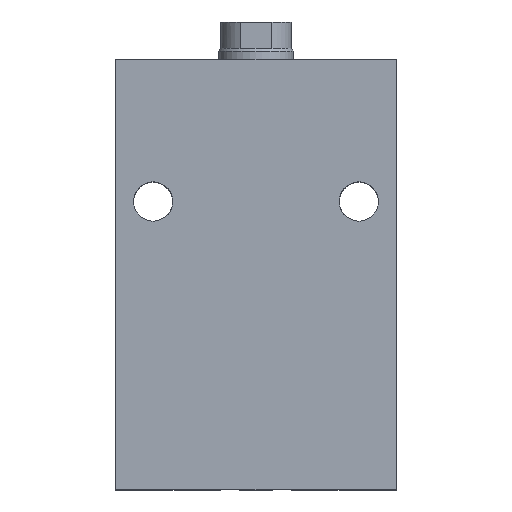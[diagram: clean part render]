
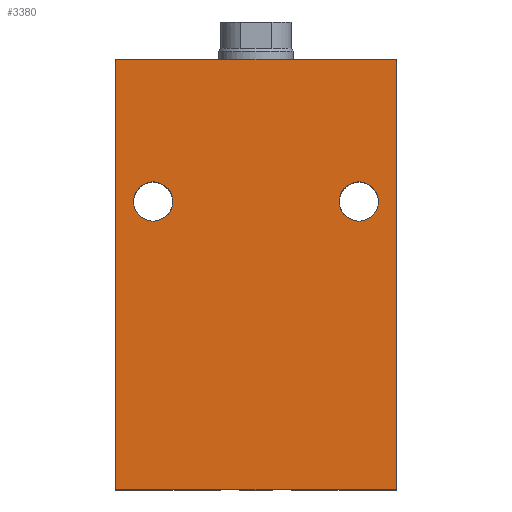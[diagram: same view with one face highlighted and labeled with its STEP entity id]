
A CAD part, top view. The second image highlights one B-rep face of the part: STEP entity #3380.
In plain terms, the highlighted planar face has unit normal (0, 0, 1).
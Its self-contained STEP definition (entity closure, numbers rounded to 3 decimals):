
#5 = EDGE_CURVE ( 'NONE', #3952, #1416, #1798, .T. ) ;
#94 = EDGE_CURVE ( 'NONE', #2467, #1801, #1583, .T. ) ;
#113 = CIRCLE ( 'NONE', #1434, 5.25 ) ;
#277 = CIRCLE ( 'NONE', #853, 5.25 ) ;
#332 = VECTOR ( 'NONE', #2322, 1000. ) ;
#348 = VECTOR ( 'NONE', #864, 1000. ) ;
#382 = FACE_OUTER_BOUND ( 'NONE', #917, .T. ) ;
#427 = LINE ( 'NONE', #1681, #332 ) ;
#451 = EDGE_CURVE ( 'NONE', #2295, #4205, #699, .T. ) ;
#499 = EDGE_CURVE ( 'NONE', #3570, #2856, #2376, .T. ) ;
#594 = DIRECTION ( 'NONE',  ( 0., 0., 1. ) ) ;
#699 = LINE ( 'NONE', #2973, #4210 ) ;
#729 = CARTESIAN_POINT ( 'NONE',  ( -37.5, 65., 27.5 ) ) ;
#785 = EDGE_CURVE ( 'NONE', #2856, #3570, #113, .T. ) ;
#812 = CARTESIAN_POINT ( 'NONE',  ( 32.75, 77., 27.5 ) ) ;
#853 = AXIS2_PLACEMENT_3D ( 'NONE', #2492, #594, #2846 ) ;
#864 = DIRECTION ( 'NONE',  ( 0., -1., 0. ) ) ;
#885 = ORIENTED_EDGE ( 'NONE', *, *, #931, .F. ) ;
#917 = EDGE_LOOP ( 'NONE', ( #1171, #885, #1523, #1474 ) ) ;
#931 = EDGE_CURVE ( 'NONE', #4205, #1416, #2920, .T. ) ;
#949 = VECTOR ( 'NONE', #2030, 1000. ) ;
#1001 = CARTESIAN_POINT ( 'NONE',  ( 37.5, 65., 27.5 ) ) ;
#1090 = CARTESIAN_POINT ( 'NONE',  ( 37.5, 115., 27.5 ) ) ;
#1166 = AXIS2_PLACEMENT_3D ( 'NONE', #2679, #2725, #2740 ) ;
#1171 = ORIENTED_EDGE ( 'NONE', *, *, #5, .T. ) ;
#1283 = CARTESIAN_POINT ( 'NONE',  ( -22.25, 77., 27.5 ) ) ;
#1416 = VERTEX_POINT ( 'NONE', #3709 ) ;
#1434 = AXIS2_PLACEMENT_3D ( 'NONE', #1842, #1825, #1820 ) ;
#1474 = ORIENTED_EDGE ( 'NONE', *, *, #4129, .T. ) ;
#1523 = ORIENTED_EDGE ( 'NONE', *, *, #451, .F. ) ;
#1583 = CIRCLE ( 'NONE', #1166, 5.25 ) ;
#1610 = PLANE ( 'NONE',  #1809 ) ;
#1626 = ORIENTED_EDGE ( 'NONE', *, *, #785, .F. ) ;
#1627 = CARTESIAN_POINT ( 'NONE',  ( 22.25, 77., 27.5 ) ) ;
#1681 = CARTESIAN_POINT ( 'NONE',  ( -37.5, 65., 27.5 ) ) ;
#1743 = ORIENTED_EDGE ( 'NONE', *, *, #94, .F. ) ;
#1798 = LINE ( 'NONE', #2021, #949 ) ;
#1801 = VERTEX_POINT ( 'NONE', #1627 ) ;
#1809 = AXIS2_PLACEMENT_3D ( 'NONE', #729, #3680, #4040 ) ;
#1820 = DIRECTION ( 'NONE',  ( 1., 0., 0. ) ) ;
#1825 = DIRECTION ( 'NONE',  ( 0., 0., 1. ) ) ;
#1842 = CARTESIAN_POINT ( 'NONE',  ( -27.5, 77., 27.5 ) ) ;
#2021 = CARTESIAN_POINT ( 'NONE',  ( -37.5, 0., 27.5 ) ) ;
#2030 = DIRECTION ( 'NONE',  ( 1., 0., 0. ) ) ;
#2068 = FACE_BOUND ( 'NONE', #3021, .T. ) ;
#2119 = CARTESIAN_POINT ( 'NONE',  ( -32.75, 77., 27.5 ) ) ;
#2147 = AXIS2_PLACEMENT_3D ( 'NONE', #2905, #2897, #3654 ) ;
#2295 = VERTEX_POINT ( 'NONE', #2967 ) ;
#2322 = DIRECTION ( 'NONE',  ( 0., -1., 0. ) ) ;
#2376 = CIRCLE ( 'NONE', #2147, 5.25 ) ;
#2467 = VERTEX_POINT ( 'NONE', #812 ) ;
#2492 = CARTESIAN_POINT ( 'NONE',  ( 27.5, 77., 27.5 ) ) ;
#2679 = CARTESIAN_POINT ( 'NONE',  ( 27.5, 77., 27.5 ) ) ;
#2693 = ORIENTED_EDGE ( 'NONE', *, *, #499, .F. ) ;
#2703 = ORIENTED_EDGE ( 'NONE', *, *, #3983, .F. ) ;
#2725 = DIRECTION ( 'NONE',  ( 0., 0., 1. ) ) ;
#2740 = DIRECTION ( 'NONE',  ( 1., 0., 0. ) ) ;
#2846 = DIRECTION ( 'NONE',  ( 1., 0., 0. ) ) ;
#2848 = FACE_BOUND ( 'NONE', #3522, .T. ) ;
#2856 = VERTEX_POINT ( 'NONE', #2119 ) ;
#2897 = DIRECTION ( 'NONE',  ( 0., 0., 1. ) ) ;
#2905 = CARTESIAN_POINT ( 'NONE',  ( -27.5, 77., 27.5 ) ) ;
#2920 = LINE ( 'NONE', #1001, #348 ) ;
#2949 = DIRECTION ( 'NONE',  ( 1., 0., 0. ) ) ;
#2967 = CARTESIAN_POINT ( 'NONE',  ( -37.5, 115., 27.5 ) ) ;
#2973 = CARTESIAN_POINT ( 'NONE',  ( -37.5, 115., 27.5 ) ) ;
#3021 = EDGE_LOOP ( 'NONE', ( #1743, #2703 ) ) ;
#3380 = ADVANCED_FACE ( 'NONE', ( #2068, #2848, #382 ), #1610, .F. ) ;
#3522 = EDGE_LOOP ( 'NONE', ( #2693, #1626 ) ) ;
#3570 = VERTEX_POINT ( 'NONE', #1283 ) ;
#3654 = DIRECTION ( 'NONE',  ( 1., 0., 0. ) ) ;
#3680 = DIRECTION ( 'NONE',  ( 0., 0., -1. ) ) ;
#3709 = CARTESIAN_POINT ( 'NONE',  ( 37.5, 0., 27.5 ) ) ;
#3848 = CARTESIAN_POINT ( 'NONE',  ( -37.5, 0., 27.5 ) ) ;
#3952 = VERTEX_POINT ( 'NONE', #3848 ) ;
#3983 = EDGE_CURVE ( 'NONE', #1801, #2467, #277, .T. ) ;
#4040 = DIRECTION ( 'NONE',  ( -1., 0., 0. ) ) ;
#4129 = EDGE_CURVE ( 'NONE', #2295, #3952, #427, .T. ) ;
#4205 = VERTEX_POINT ( 'NONE', #1090 ) ;
#4210 = VECTOR ( 'NONE', #2949, 1000. ) ;
